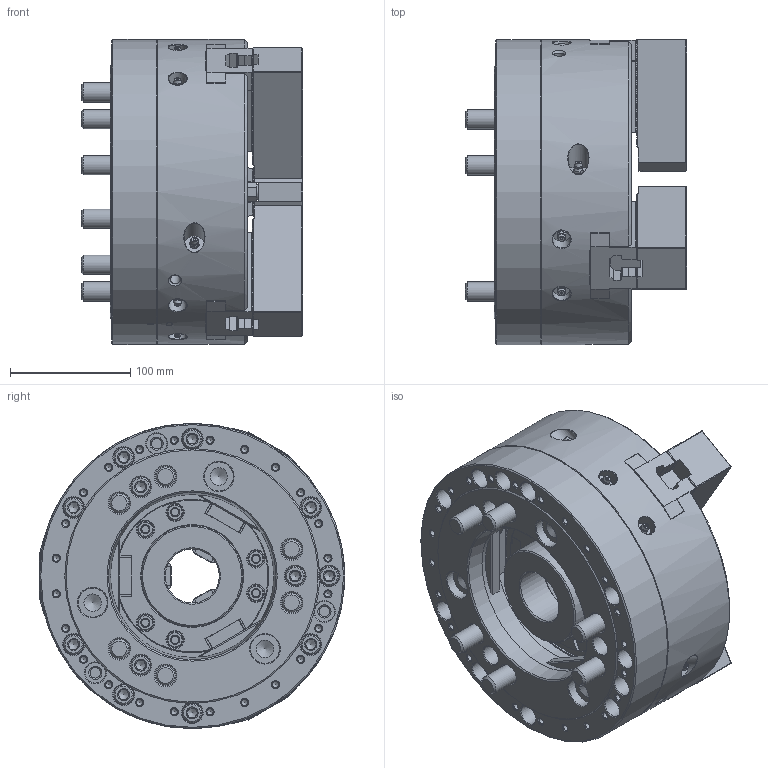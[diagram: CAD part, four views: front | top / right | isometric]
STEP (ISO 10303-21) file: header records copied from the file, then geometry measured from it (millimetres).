
FILE_DESCRIPTION (( 'STEP AP214' ), '1' );
FILE_NAME ('DT1_HOH-10K_OUTSIDE_VIEW_UC.STEP', '2024-05-09T04:30:14', ( '' ), ( '' ), 'SwSTEP 2.0', 'SolidWorks 2022', '' );
FILE_SCHEMA (( 'AUTOMOTIVE_DESIGN' ));
Length unit declared in the file: millimetre
Products named in the file (9): DT1_HOH-10K_M6x12^DT1_HOH-10K_ﾃﾞﾌｫﾙﾄ; DT1_HOH-10K_SOFTJAW^DT1_HOH-10K_ﾃﾞﾌｫﾙﾄ; DT1_HOH-10K_M16x120^DT1_HOH-10K_ﾃﾞﾌｫﾙﾄ; DT1_HOH-10K_TNUT^DT1_HOH-10K_ﾃﾞﾌｫﾙﾄ; DT1_HOH-10K_M12x35^DT1_HOH-10K_ﾃﾞﾌｫﾙﾄ; DT1_HOH-10K_BASE^DT1_HOH-10K_ﾃﾞﾌｫﾙﾄ; DT1_HOH-10K_DRAWNUT^DT1_HOH-10K_ﾃﾞﾌｫﾙﾄ; DT1_HOH-10K_COVER^DT1_HOH-10K_ﾃﾞﾌｫﾙﾄ; DT1_HOH-10K_OUTSIDE_VIEW_UC
Assembly tree (24 placements, depth 2):
  DT1_HOH-10K_OUTSIDE_VIEW_UC
    DT1_HOH-10K_SOFTJAW^DT1_HOH-10K_ﾃﾞﾌｫﾙﾄ  x3
    DT1_HOH-10K_TNUT^DT1_HOH-10K_ﾃﾞﾌｫﾙﾄ  x3
    DT1_HOH-10K_DRAWNUT^DT1_HOH-10K_ﾃﾞﾌｫﾙﾄ
    DT1_HOH-10K_COVER^DT1_HOH-10K_ﾃﾞﾌｫﾙﾄ
    DT1_HOH-10K_BASE^DT1_HOH-10K_ﾃﾞﾌｫﾙﾄ
    DT1_HOH-10K_M6x12^DT1_HOH-10K_ﾃﾞﾌｫﾙﾄ  x3
    DT1_HOH-10K_M12x35^DT1_HOH-10K_ﾃﾞﾌｫﾙﾄ  x6
    DT1_HOH-10K_M16x120^DT1_HOH-10K_ﾃﾞﾌｫﾙﾄ  x6
Bounding box: 184 x 254.25 x 254 mm (x, y, z)
Volume: 5343319.6 mm3; surface area: 597403.7 mm2
Topology: 24 solids, 30 shells, 4393 faces, 12188 edges, 7992 vertices
Faces by surface type: plane 3227, cylinder 613, cone 374, bspline 131, torus 39, sphere 9
Full cylindrical faces by diameter (mm): 2 x9, 5 x3, 5.2 x24, 6 x3, 6.6 x3, 8.6 x5, 10.2 x6, 10.22 x3, 11 x3, 12 x6, 13 x6, 13.27 x6, 14 x6, 15 x6, 16 x6, 16.27 x12, 17 x30, 18.27 x6, 19 x6, 24.21 x3, 24.33 x6, 25 x6, 45 x1, 65 x2, 70 x2, 76.4 x1, 84.5 x2, 92 x2, 136 x1, 142 x1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
Entity records: 129061 total; most frequent: CARTESIAN_POINT 48163, ORIENTED_EDGE 17618, DIRECTION 14554, EDGE_CURVE 8809, LINE 6334, VECTOR 6334, VERTEX_POINT 5975, AXIS2_PLACEMENT_3D 4110
